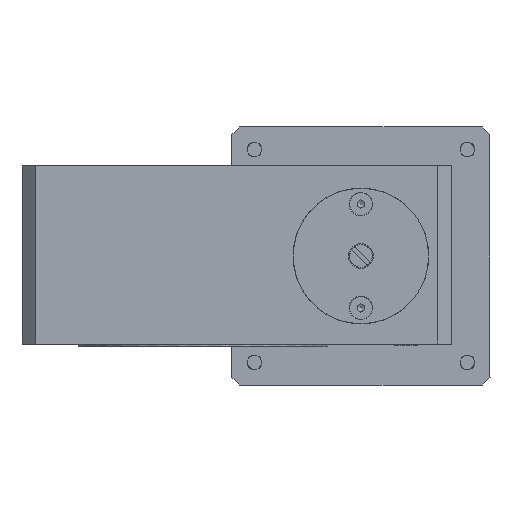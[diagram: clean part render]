
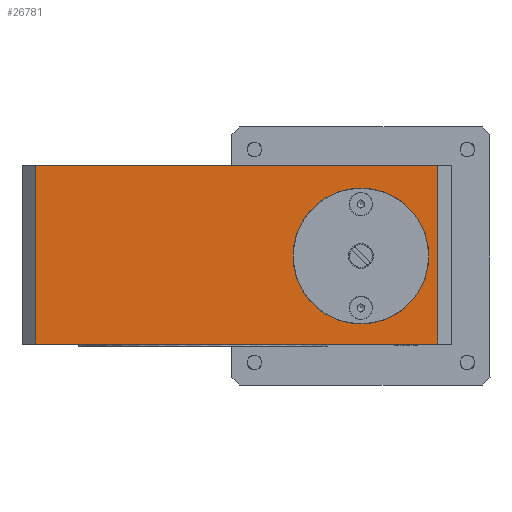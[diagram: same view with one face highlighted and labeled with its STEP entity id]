
A CAD part, left-side view. The second image highlights one B-rep face of the part: STEP entity #26781.
In plain terms, the highlighted planar face has unit normal (-1, 0, 0).
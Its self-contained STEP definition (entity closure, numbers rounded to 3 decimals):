
#26645=CARTESIAN_POINT('',(-19.415,-69.793,39.5));
#26646=VERTEX_POINT('',#26645);
#26668=CARTESIAN_POINT('',(-19.415,19.207,39.5));
#26669=VERTEX_POINT('',#26668);
#26676=CARTESIAN_POINT('',(-19.415,-69.793,39.5));
#26677=DIRECTION('',(0.0,1.0,0.0));
#26678=VECTOR('',#26677,89.0);
#26679=LINE('',#26676,#26678);
#26680=EDGE_CURVE('',#26646,#26669,#26679,.T.);
#26740=CARTESIAN_POINT('',(-19.415,-72.793,0.0));
#26741=DIRECTION('',(-1.0,0.0,0.0));
#26742=DIRECTION('',(0.0,0.0,1.0));
#26743=AXIS2_PLACEMENT_3D('',#26740,#26741,#26742);
#26744=PLANE('',#26743);
#26745=CARTESIAN_POINT('',(-19.415,-69.793,0.0));
#26746=VERTEX_POINT('',#26745);
#26747=CARTESIAN_POINT('',(-19.415,-69.793,39.5));
#26748=DIRECTION('',(0.0,0.0,-1.0));
#26749=VECTOR('',#26748,39.5);
#26750=LINE('',#26747,#26749);
#26751=EDGE_CURVE('',#26646,#26746,#26750,.T.);
#26752=ORIENTED_EDGE('',*,*,#26751,.F.);
#26753=ORIENTED_EDGE('',*,*,#26680,.T.);
#26754=CARTESIAN_POINT('',(-19.415,19.207,0.0));
#26755=VERTEX_POINT('',#26754);
#26756=CARTESIAN_POINT('',(-19.415,19.207,0.0));
#26757=DIRECTION('',(0.0,0.0,1.0));
#26758=VECTOR('',#26757,39.5);
#26759=LINE('',#26756,#26758);
#26760=EDGE_CURVE('',#26755,#26669,#26759,.T.);
#26761=ORIENTED_EDGE('',*,*,#26760,.F.);
#26762=CARTESIAN_POINT('',(-19.415,-69.793,0.0));
#26763=DIRECTION('',(0.0,1.0,0.0));
#26764=VECTOR('',#26763,89.0);
#26765=LINE('',#26762,#26764);
#26766=EDGE_CURVE('',#26746,#26755,#26765,.T.);
#26767=ORIENTED_EDGE('',*,*,#26766,.F.);
#26768=EDGE_LOOP('',(#26752,#26753,#26761,#26767));
#26769=FACE_OUTER_BOUND('',#26768,.T.);
#26770=CARTESIAN_POINT('',(-19.415,-52.793,34.55));
#26771=VERTEX_POINT('',#26770);
#26772=CARTESIAN_POINT('',(-19.415,-52.793,19.5));
#26773=DIRECTION('',(1.0,0.0,0.0));
#26774=DIRECTION('',(0.0,0.0,-1.0));
#26775=AXIS2_PLACEMENT_3D('',#26772,#26773,#26774);
#26776=CIRCLE('',#26775,15.05);
#26777=EDGE_CURVE('',#26771,#26771,#26776,.T.);
#26778=ORIENTED_EDGE('',*,*,#26777,.T.);
#26779=EDGE_LOOP('',(#26778));
#26780=FACE_BOUND('',#26779,.T.);
#26781=ADVANCED_FACE('',(#26769,#26780),#26744,.T.);
